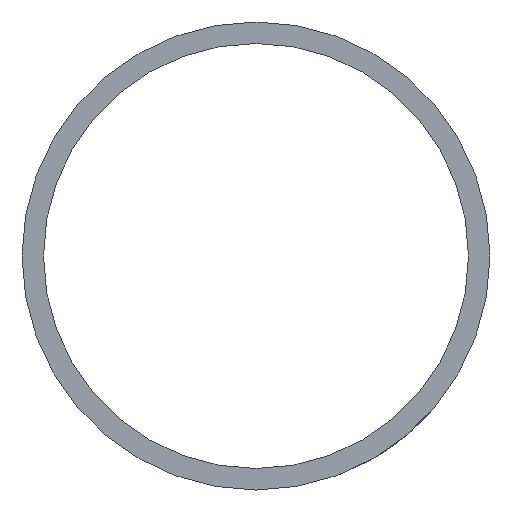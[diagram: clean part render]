
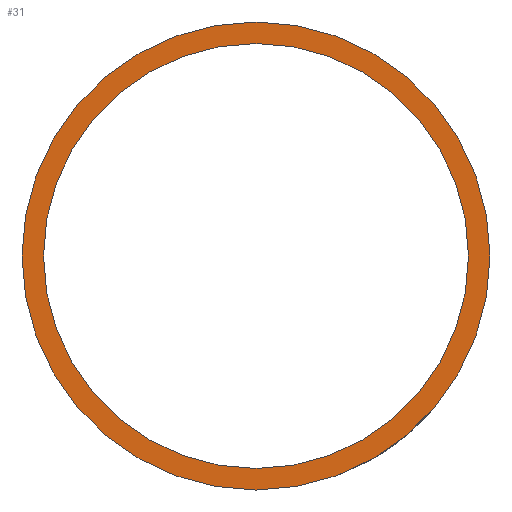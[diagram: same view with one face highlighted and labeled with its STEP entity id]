
A CAD part, left-side view. The second image highlights one B-rep face of the part: STEP entity #31.
In plain terms, the highlighted planar face has unit normal (-1, 0, 0).
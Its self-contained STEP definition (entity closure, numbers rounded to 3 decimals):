
#27=PLANE('',#219);
#31=ADVANCED_FACE('',(#53,#41),#27,.T.);
#41=FACE_OUTER_BOUND('',#62,.F.);
#53=FACE_BOUND('',#61,.F.);
#61=EDGE_LOOP('',(#87,#88));
#62=EDGE_LOOP('',(#89,#90));
#87=ORIENTED_EDGE('',*,*,#175,.T.);
#88=ORIENTED_EDGE('',*,*,#167,.T.);
#89=ORIENTED_EDGE('',*,*,#178,.F.);
#90=ORIENTED_EDGE('',*,*,#170,.F.);
#151=CIRCLE('',#209,27.394);
#154=CIRCLE('',#212,30.163);
#155=CIRCLE('',#213,27.394);
#158=CIRCLE('',#216,30.163);
#167=EDGE_CURVE('',#198,#197,#151,.T.);
#170=EDGE_CURVE('',#192,#191,#154,.T.);
#175=EDGE_CURVE('',#197,#198,#155,.T.);
#178=EDGE_CURVE('',#191,#192,#158,.T.);
#191=VERTEX_POINT('',#277);
#192=VERTEX_POINT('',#278);
#197=VERTEX_POINT('',#283);
#198=VERTEX_POINT('',#284);
#209=AXIS2_PLACEMENT_3D('',#455,#230,#231);
#212=AXIS2_PLACEMENT_3D('',#458,#236,#237);
#213=AXIS2_PLACEMENT_3D('',#463,#242,#243);
#216=AXIS2_PLACEMENT_3D('',#466,#248,#249);
#219=AXIS2_PLACEMENT_3D('',#473,#258,#259);
#230=DIRECTION('',(-1.,0.,0.));
#231=DIRECTION('',(0.,1.,0.));
#236=DIRECTION('',(-1.,0.,0.));
#237=DIRECTION('',(0.,1.,0.));
#242=DIRECTION('',(-1.,0.,0.));
#243=DIRECTION('',(0.,-1.,0.));
#248=DIRECTION('',(-1.,0.,0.));
#249=DIRECTION('',(0.,-1.,0.));
#258=DIRECTION('',(-1.,0.,0.));
#259=DIRECTION('',(0.,0.,1.));
#277=CARTESIAN_POINT('',(-141.2,-215.362,6835.));
#278=CARTESIAN_POINT('',(-141.2,-155.037,6835.));
#283=CARTESIAN_POINT('',(-141.2,-212.594,6835.));
#284=CARTESIAN_POINT('',(-141.2,-157.806,6835.));
#455=CARTESIAN_POINT('',(-141.2,-185.2,6835.));
#458=CARTESIAN_POINT('',(-141.2,-185.2,6835.));
#463=CARTESIAN_POINT('',(-141.2,-185.2,6835.));
#466=CARTESIAN_POINT('',(-141.2,-185.2,6835.));
#473=CARTESIAN_POINT('',(-141.2,-215.966,6804.234));
